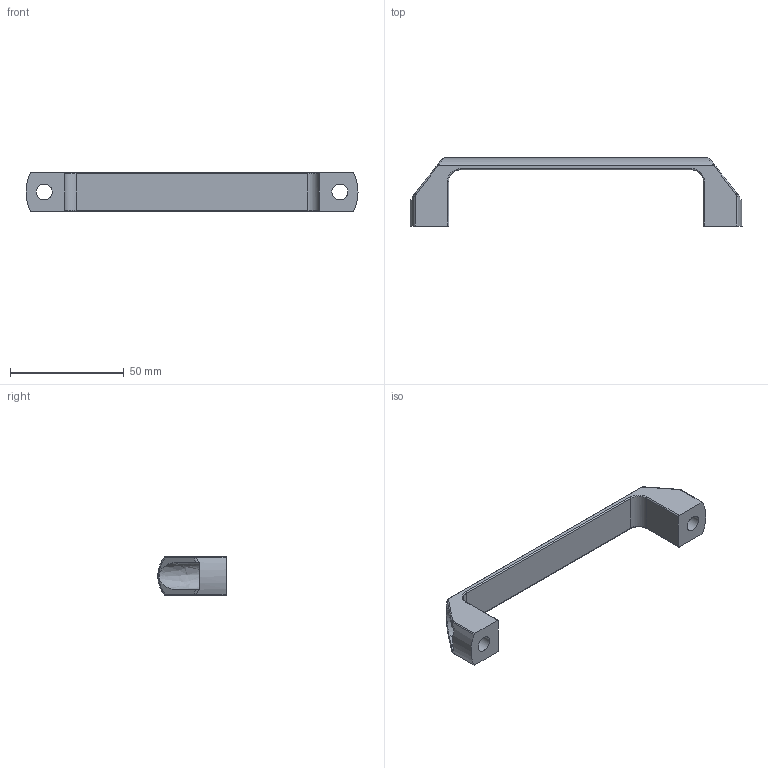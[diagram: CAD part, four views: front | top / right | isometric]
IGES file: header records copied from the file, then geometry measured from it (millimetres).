
Global section: file name: DR_A-AC130; native system: Autodesk Inventor 2015; preprocessor: unknown; author: CH.J; date: 20170705.114518; units: millimetre
Bounding box: 146 x 30 x 17 mm (x, y, z)
Volume: 17188.3 mm3; surface area: 9202.1 mm2
Topology: 1 solids, 1 shells, 60 faces, 152 edges, 92 vertices
Faces by surface type: bspline 60
